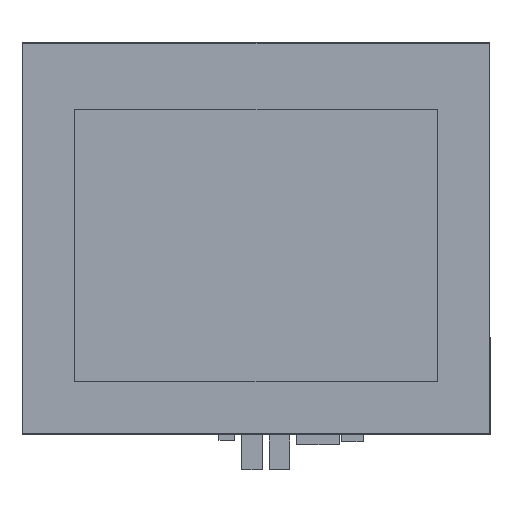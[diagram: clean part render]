
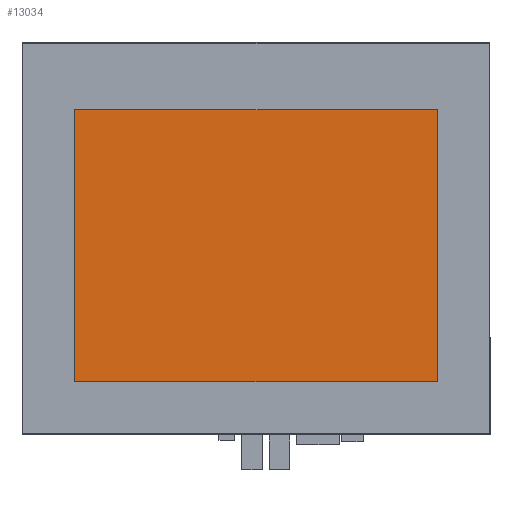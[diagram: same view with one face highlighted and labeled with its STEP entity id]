
A CAD part, top view. The second image highlights one B-rep face of the part: STEP entity #13034.
In plain terms, the highlighted planar face has unit normal (0, 0, 1).
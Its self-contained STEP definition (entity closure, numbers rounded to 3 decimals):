
#22 = DIRECTION ( 'NONE',  ( 0., 0., 1. ) ) ;
#888 = VECTOR ( 'NONE', #23606, 1000. ) ;
#1000 = VERTEX_POINT ( 'NONE', #24732 ) ;
#1814 = PLANE ( 'NONE',  #21207 ) ;
#2510 = CARTESIAN_POINT ( 'NONE',  ( 158.5, 219.91, 3.9 ) ) ;
#2610 = DIRECTION ( 'NONE',  ( 1., 0., 0. ) ) ;
#2641 = EDGE_CURVE ( 'NONE', #17033, #13558, #9042, .T. ) ;
#6220 = FACE_OUTER_BOUND ( 'NONE', #22174, .T. ) ;
#7351 = ORIENTED_EDGE ( 'NONE', *, *, #9677, .T. ) ;
#8700 = VERTEX_POINT ( 'NONE', #10361 ) ;
#9042 = LINE ( 'NONE', #20611, #9811 ) ;
#9301 = CARTESIAN_POINT ( 'NONE',  ( 35.62, 219.91, 3.9 ) ) ;
#9332 = VECTOR ( 'NONE', #2610, 1000. ) ;
#9677 = EDGE_CURVE ( 'NONE', #1000, #8700, #21882, .T. ) ;
#9811 = VECTOR ( 'NONE', #19803, 1000. ) ;
#10361 = CARTESIAN_POINT ( 'NONE',  ( 281.38, 219.91, 3.9 ) ) ;
#13034 = ADVANCED_FACE ( 'NONE', ( #6220 ), #1814, .T. ) ;
#13558 = VERTEX_POINT ( 'NONE', #23171 ) ;
#15387 = DIRECTION ( 'NONE',  ( 0., 1., 0. ) ) ;
#15470 = CARTESIAN_POINT ( 'NONE',  ( 281.38, 127.75, 3.9 ) ) ;
#17033 = VERTEX_POINT ( 'NONE', #9301 ) ;
#17507 = ORIENTED_EDGE ( 'NONE', *, *, #2641, .T. ) ;
#17518 = CARTESIAN_POINT ( 'NONE',  ( 158.5, 127.75, 3.9 ) ) ;
#17960 = EDGE_CURVE ( 'NONE', #8700, #17033, #23895, .T. ) ;
#19112 = EDGE_CURVE ( 'NONE', #13558, #1000, #20282, .T. ) ;
#19283 = ORIENTED_EDGE ( 'NONE', *, *, #17960, .T. ) ;
#19803 = DIRECTION ( 'NONE',  ( 0., -1., 0. ) ) ;
#20282 = LINE ( 'NONE', #23616, #9332 ) ;
#20611 = CARTESIAN_POINT ( 'NONE',  ( 35.62, 127.75, 3.9 ) ) ;
#21207 = AXIS2_PLACEMENT_3D ( 'NONE', #17518, #22, #21642 ) ;
#21636 = VECTOR ( 'NONE', #15387, 1000. ) ;
#21642 = DIRECTION ( 'NONE',  ( 0., -1., 0. ) ) ;
#21882 = LINE ( 'NONE', #15470, #21636 ) ;
#22174 = EDGE_LOOP ( 'NONE', ( #7351, #19283, #17507, #23537 ) ) ;
#23171 = CARTESIAN_POINT ( 'NONE',  ( 35.62, 35.59, 3.9 ) ) ;
#23537 = ORIENTED_EDGE ( 'NONE', *, *, #19112, .T. ) ;
#23606 = DIRECTION ( 'NONE',  ( -1., 0., 0. ) ) ;
#23616 = CARTESIAN_POINT ( 'NONE',  ( 158.5, 35.59, 3.9 ) ) ;
#23895 = LINE ( 'NONE', #2510, #888 ) ;
#24732 = CARTESIAN_POINT ( 'NONE',  ( 281.38, 35.59, 3.9 ) ) ;
